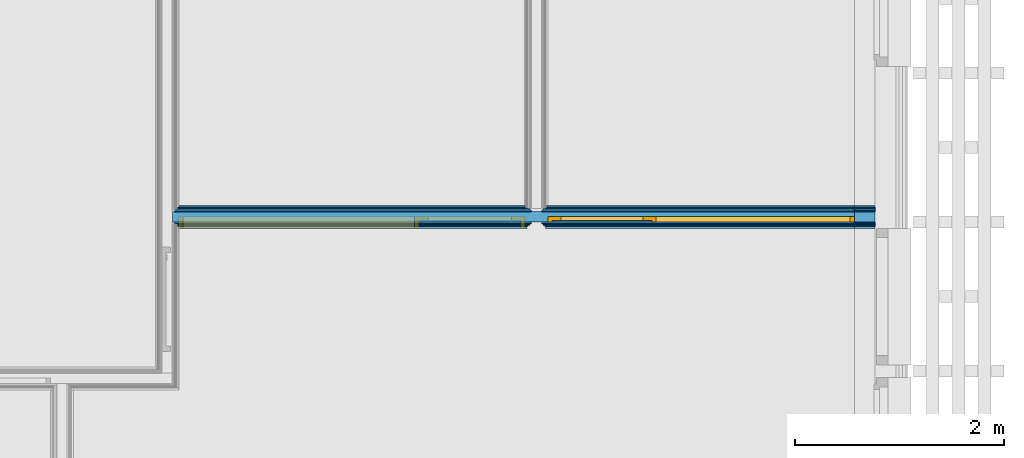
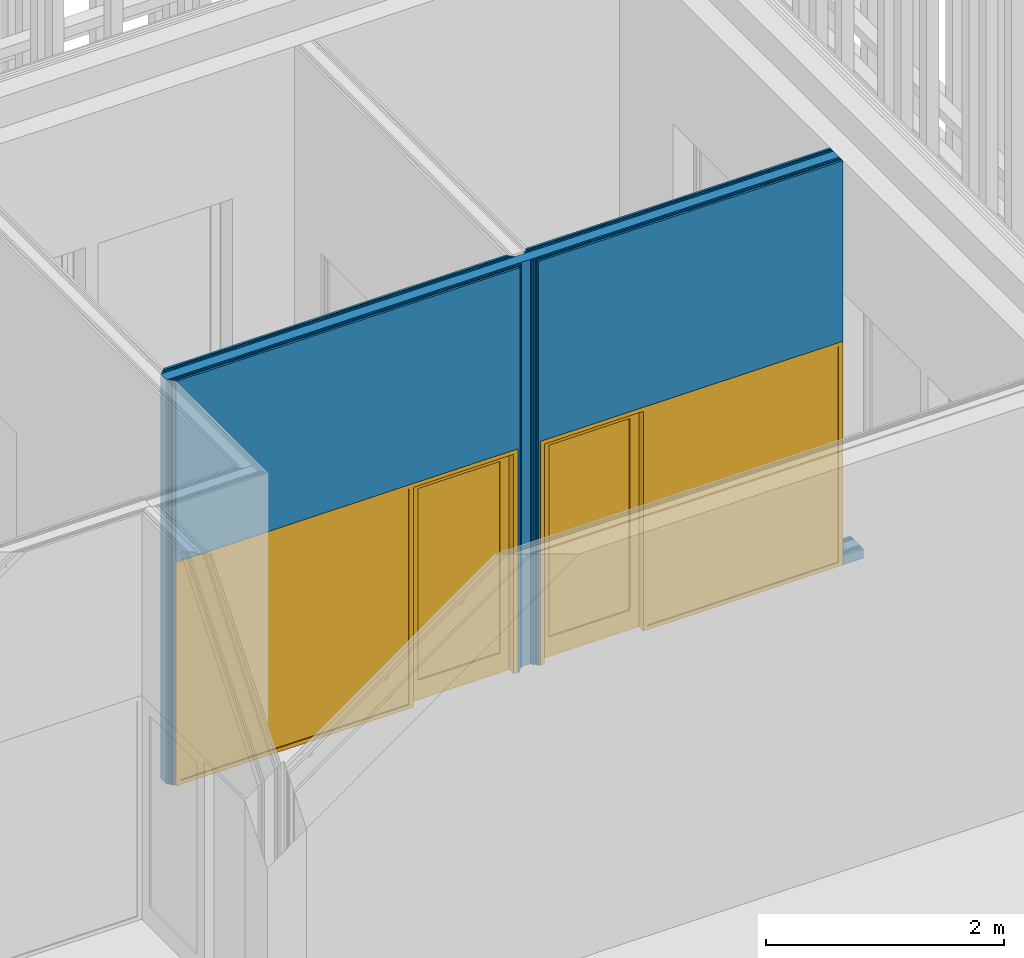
# One storey, part 220 of 260: 9 building element parts, 2 doors, 2 openings, 1 element without a shape of its own.
"""IFC2X3 building model written with IfcOpenShell, lengths in millimetres."""

from ifc_helpers import new_model, entity, si_unit, converted_unit, derived_unit, money_unit, direction, frame, origin_with_axes, place, context, subcontext, project, spatial, open_shell, faceted_brep, surface_model, material, type_object, element, fill, aggregate, save


model = new_model("IFC2X3")

# Units and contexts
model_context = context("Model", 3, precision=0.01, world=origin_with_axes(), true_north=direction((0.0, 1.0)))
body_context = subcontext(model_context, "Body", "Model", "MODEL_VIEW")
ifc_project = project(units=[si_unit("LENGTHUNIT", "METRE", prefix="MILLI"), si_unit("AREAUNIT", "SQUARE_METRE"), si_unit("VOLUMEUNIT", "CUBIC_METRE"), converted_unit("PLANEANGLEUNIT", "DEGREE", entity("IfcPlaneAngleMeasure", 0.0174532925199), si_unit("PLANEANGLEUNIT", "RADIAN"), dimensions=[0, 0, 0, 0, 0, 0, 0]), money_unit("EUR"), converted_unit("TIMEUNIT", "Year", entity("IfcTimeMeasure", 31556926.0), si_unit("TIMEUNIT", "SECOND"), dimensions=[0, 0, 1, 0, 0, 0, 0]), si_unit("MASSUNIT", "GRAM", prefix="KILO"), si_unit("THERMODYNAMICTEMPERATUREUNIT", "DEGREE_CELSIUS"), si_unit("LUMINOUSINTENSITYUNIT", "LUMEN"), si_unit("ENERGYUNIT", "JOULE", prefix="MEGA"), derived_unit("THERMALCONDUCTANCEUNIT", [(si_unit("POWERUNIT", "WATT"), 1), (si_unit("LENGTHUNIT", "METRE"), -1), (si_unit("THERMODYNAMICTEMPERATUREUNIT", "KELVIN"), -1)]), derived_unit("SPECIFICHEATCAPACITYUNIT", [(si_unit("ENERGYUNIT", "JOULE"), 1), (si_unit("MASSUNIT", "GRAM", prefix="KILO"), -1), (si_unit("THERMODYNAMICTEMPERATUREUNIT", "KELVIN"), -1)]), derived_unit("MASSDENSITYUNIT", [(si_unit("MASSUNIT", "GRAM", prefix="KILO"), 1), (si_unit("VOLUMEUNIT", "CUBIC_METRE"), -1)])], contexts=[model_context])

# Site, building, storey
site_placement = place(None, origin_with_axes())
site = spatial("IfcSite", under=ifc_project, at=site_placement, Name="Kolde pst 67a", CompositionType="ELEMENT")
building_placement = place(site_placement, origin_with_axes())
building = spatial("IfcBuilding", under=site, at=building_placement, Name="Riigigümnaasium", CompositionType="ELEMENT")
storey_placement = place(building_placement, origin_with_axes())
storey = spatial("IfcBuildingStorey", under=building, at=storey_placement, Name="1. korrus", CompositionType="ELEMENT", Elevation=0.0)

# Door
door_style_1 = type_object("IfcDoorStyle", Name="Door with Sidelight on Side 2 25", ConstructionType="NOTDEFINED", OperationType="SINGLE_SWING_LEFT", ParameterTakesPrecedence=False, Sizeable=False)
wall_placement = place(storey_placement, frame((77599.9912984, 32700.0250702, 0.0), z_axis=(0.0, 0.0, 1.0), x_axis=(1.0, 0.0, 0.0)))
opening_2_placement = place(wall_placement, frame((5170.0080295, 0.0, 0.0), z_axis=(0.0, 0.0, 1.0), x_axis=(1.0, 0.0, 0.0)))
door_1_placement = place(opening_2_placement, frame((-1470.0, 0.0, 0.0), z_axis=(0.0, 0.0, 1.0), x_axis=(1.0, 0.0, 0.0)))
door_1 = element("IfcDoor", 1, at=door_1_placement, inside=storey, type_object=door_style_1, Name="Siseuks", ObjectType="DOOR", OverallHeight=2300.0, OverallWidth=2940.0, context=body_context, shape_type="SurfaceModel", body=[
    faceted_brep([(2940.0, -105.0, 0.0), (2940.0, -220.0, 0.0), (2900.0, -220.0, 0.0), (2900.0, -105.0, 0.0), (2940.0, -105.0, 2260.0), (2940.0, -220.0, 2260.0), (2900.0, -220.0, 2260.0), (2900.0, -220.0, 40.0), (2900.0, -105.0, 40.0), (2900.0, -105.0, 2260.0)], [[[0, 1, 2, 3]], [[4, 5, 1, 0]], [[1, 5, 6, 7, 2]], [[3, 2, 7, 8]], [[0, 3, 8, 9, 4]], [[9, 6, 5, 4]], [[8, 7, 6, 9]]]),
    faceted_brep([(1000.0, -145.0, 0.0), (1000.0, -220.0, 0.0), (1000.0, -220.0, 2260.0), (1000.0, -145.0, 2260.0), (1012.0, -145.0, 0.0), (1012.0, -105.0, 0.0), (1040.0, -105.0, 0.0), (1040.0, -220.0, 0.0), (1040.0, -220.0, 40.0), (1040.0, -220.0, 2260.0), (1012.0, -145.0, 2260.0), (1040.0, -105.0, 2260.0), (1012.0, -105.0, 2260.0), (1040.0, -105.0, 40.0)], [[[0, 1, 2, 3]], [[4, 5, 6, 7, 1, 0]], [[7, 8, 9, 2, 1]], [[10, 3, 2, 9, 11, 12]], [[10, 4, 0, 3]], [[12, 5, 4, 10]], [[12, 11, 13, 6, 5]], [[6, 13, 8, 7]], [[13, 11, 9, 8]]]),
    faceted_brep([(2900.0, -105.0, 40.0), (2900.0, -220.0, 40.0), (2900.0, -220.0, 0.0), (2900.0, -105.0, 0.0), (1040.0, -105.0, 40.0), (1040.0, -220.0, 40.0), (1040.0, -220.0, 0.0), (1040.0, -105.0, 0.0)], [[[0, 1, 2, 3]], [[4, 5, 1, 0]], [[1, 5, 6, 2]], [[3, 2, 6, 7]], [[0, 3, 7, 4]], [[7, 6, 5, 4]]]),
    faceted_brep([(28.0, -145.0, 2260.0), (28.0, -105.0, 2260.0), (0.0, -105.0, 2260.0), (0.0, -220.0, 2260.0), (40.0, -220.0, 2260.0), (40.0, -145.0, 2260.0), (28.0, -145.0, 0.0), (28.0, -105.0, 0.0), (0.0, -105.0, 0.0), (0.0, -220.0, 0.0), (40.0, -220.0, 0.0), (40.0, -145.0, 0.0)], [[[0, 1, 2, 3, 4, 5]], [[0, 6, 7, 1]], [[7, 8, 2, 1]], [[2, 8, 9, 3]], [[3, 9, 10, 4]], [[5, 4, 10, 11]], [[5, 11, 6, 0]], [[6, 11, 10, 9, 8, 7]]]),
    faceted_brep([(1012.0, -105.0, 2272.0), (28.0, -105.0, 2272.0), (28.0, -105.0, 2260.0), (0.0, -105.0, 2260.0), (0.0, -105.0, 2300.0), (2940.0, -105.0, 2300.0), (2940.0, -105.0, 2260.0), (2900.0, -105.0, 2260.0), (1040.0, -105.0, 2260.0), (1012.0, -105.0, 2260.0), (1012.0, -145.0, 2272.0), (28.0, -145.0, 2272.0), (28.0, -145.0, 2260.0), (40.0, -145.0, 2260.0), (40.0, -220.0, 2260.0), (0.0, -220.0, 2260.0), (0.0, -220.0, 2300.0), (2940.0, -220.0, 2300.0), (2940.0, -220.0, 2260.0), (2900.0, -220.0, 2260.0), (1040.0, -220.0, 2260.0), (1012.0, -145.0, 2260.0), (1000.0, -220.0, 2260.0)], [[[0, 1, 2, 3, 4, 5, 6, 7, 8, 9]], [[0, 10, 11, 1]], [[1, 11, 12, 2]], [[12, 13, 14, 15, 3, 2]], [[4, 3, 15, 16]], [[5, 4, 16, 17]], [[6, 5, 17, 18]], [[7, 6, 18, 19]], [[8, 7, 19, 20]], [[21, 9, 8, 20, 22, 14, 13]], [[9, 21, 10, 0]], [[12, 11, 10, 21, 13]], [[14, 22, 20, 19, 18, 17, 16, 15]]]),
    faceted_brep([(28.0, -105.0, 200.0), (128.0, -105.0, 200.0), (128.0, -145.0, 200.0), (28.0, -145.0, 200.0), (28.0, -105.0, 2172.0), (128.0, -105.0, 2172.0), (128.0, -145.0, 2172.0), (28.0, -145.0, 2172.0)], [[[0, 1, 2, 3]], [[0, 4, 5, 1]], [[1, 5, 6, 2]], [[3, 2, 6, 7]], [[4, 0, 3, 7]], [[5, 4, 7, 6]]]),
    faceted_brep([(1012.0, -105.0, 200.0), (1012.0, -105.0, 2172.0), (1012.0, -145.0, 2172.0), (1012.0, -145.0, 200.0), (912.0, -105.0, 200.0), (912.0, -105.0, 2172.0), (912.0, -145.0, 2172.0), (912.0, -145.0, 200.0)], [[[0, 1, 2, 3]], [[0, 4, 5, 1]], [[1, 5, 6, 2]], [[3, 2, 6, 7]], [[4, 0, 3, 7]], [[5, 4, 7, 6]]]),
    faceted_brep([(28.0, -105.0, 0.0), (1012.0, -105.0, 0.0), (1012.0, -145.0, 0.0), (28.0, -145.0, 0.0), (28.0, -105.0, 200.0), (128.0, -105.0, 200.0), (912.0, -105.0, 200.0), (1012.0, -105.0, 200.0), (1012.0, -145.0, 200.0), (912.0, -145.0, 200.0), (128.0, -145.0, 200.0), (28.0, -145.0, 200.0)], [[[0, 1, 2, 3]], [[0, 4, 5, 6, 7, 1]], [[1, 7, 8, 2]], [[3, 2, 8, 9, 10, 11]], [[4, 0, 3, 11]], [[5, 4, 11, 10]], [[6, 5, 10, 9]], [[7, 6, 9, 8]]]),
    faceted_brep([(28.0, -105.0, 2272.0), (28.0, -105.0, 2172.0), (28.0, -145.0, 2172.0), (28.0, -145.0, 2272.0), (1012.0, -105.0, 2272.0), (1012.0, -105.0, 2172.0), (912.0, -105.0, 2172.0), (128.0, -105.0, 2172.0), (128.0, -145.0, 2172.0), (912.0, -145.0, 2172.0), (1012.0, -145.0, 2172.0), (1012.0, -145.0, 2272.0)], [[[0, 1, 2, 3]], [[0, 4, 5, 6, 7, 1]], [[1, 7, 8, 2]], [[3, 2, 8, 9, 10, 11]], [[4, 0, 3, 11]], [[5, 4, 11, 10]], [[6, 5, 10, 9]], [[7, 6, 9, 8]]]),
    surface_model("IfcShellBasedSurfaceModel", [(128.0, -119.0, 200.0), (128.0, -119.0, 2172.0), (912.0, -119.0, 2172.0), (912.0, -119.0, 200.0)], [open_shell([[[0, 1, 2, 3]]])]),
    surface_model("IfcShellBasedSurfaceModel", [(128.0, -131.0, 200.0), (912.0, -131.0, 200.0), (912.0, -131.0, 2172.0), (128.0, -131.0, 2172.0)], [open_shell([[[0, 1, 2, 3]]])]),
    surface_model("IfcShellBasedSurfaceModel", [(2900.0, -196.0, 40.0), (1040.0, -196.0, 40.0), (1040.0, -196.0, 2260.0), (2900.0, -196.0, 2260.0)], [open_shell([[[0, 1, 2, 3]]])]),
    surface_model("IfcShellBasedSurfaceModel", [(2900.0, -208.0, 40.0), (2900.0, -208.0, 2260.0), (1040.0, -208.0, 2260.0), (1040.0, -208.0, 40.0)], [open_shell([[[0, 1, 2, 3]]])]),
])

door_style_2 = type_object("IfcDoorStyle", Name="Door with Sidelight on Side 2 25", ConstructionType="NOTDEFINED", OperationType="SINGLE_SWING_RIGHT", ParameterTakesPrecedence=False, Sizeable=False)
opening_1_placement = place(wall_placement, frame((1820.00401475, 0.0, 0.0), z_axis=(0.0, 0.0, 1.0), x_axis=(1.0, 0.0, 0.0)))
door_2_placement = place(opening_1_placement, frame((-1660.00401475, 0.0, 0.0), z_axis=(0.0, 0.0, 1.0), x_axis=(1.0, 0.0, 0.0)))
door_2 = element("IfcDoor", 2, at=door_2_placement, inside=storey, type_object=door_style_2, Name="Siseuks", ObjectType="DOOR", OverallHeight=2300.0, OverallWidth=3320.01, context=body_context, shape_type="SurfaceModel", body=[
    faceted_brep([(0.0, -105.0, 0.0), (40.0, -105.0, 0.0), (40.0, -220.0, 0.0), (0.0, -220.0, 0.0), (0.0, -105.0, 2260.0), (40.0, -105.0, 2260.0), (40.0, -105.0, 40.0), (40.0, -220.0, 40.0), (40.0, -220.0, 2260.0), (0.0, -220.0, 2260.0)], [[[0, 1, 2, 3]], [[0, 4, 5, 6, 1]], [[1, 6, 7, 2]], [[3, 2, 7, 8, 9]], [[4, 0, 3, 9]], [[5, 4, 9, 8]], [[6, 5, 8, 7]]]),
    faceted_brep([(2304.0080295, -145.0, 0.0), (2304.0080295, -145.0, 2260.0), (2304.0080295, -220.0, 2260.0), (2304.0080295, -220.0, 0.0), (2292.0080295, -145.0, 2260.0), (2292.0080295, -145.0, 0.0), (2292.0080295, -105.0, 2260.0), (2264.0080295, -105.0, 2260.0), (2264.0080295, -220.0, 2260.0), (2264.0080295, -220.0, 0.0), (2264.0080295, -220.0, 40.0), (2264.0080295, -105.0, 0.0), (2292.0080295, -105.0, 0.0), (2264.0080295, -105.0, 40.0)], [[[0, 1, 2, 3]], [[4, 1, 0, 5]], [[4, 6, 7, 8, 2, 1]], [[9, 3, 2, 8, 10]], [[5, 0, 3, 9, 11, 12]], [[6, 4, 5, 12]], [[6, 12, 11, 13, 7]], [[13, 10, 8, 7]], [[11, 9, 10, 13]]]),
    faceted_brep([(40.0, -105.0, 40.0), (40.0, -105.0, 0.0), (40.0, -220.0, 0.0), (40.0, -220.0, 40.0), (2264.0080295, -105.0, 40.0), (2264.0080295, -105.0, 0.0), (2264.0080295, -220.0, 0.0), (2264.0080295, -220.0, 40.0)], [[[0, 1, 2, 3]], [[0, 4, 5, 1]], [[1, 5, 6, 2]], [[3, 2, 6, 7]], [[4, 0, 3, 7]], [[5, 4, 7, 6]]]),
    faceted_brep([(3292.0080295, -145.0, 2260.0), (3280.0080295, -145.0, 2260.0), (3280.0080295, -220.0, 2260.0), (3320.0080295, -220.0, 2260.0), (3320.0080295, -105.0, 2260.0), (3292.0080295, -105.0, 2260.0), (3292.0080295, -145.0, 0.0), (3280.0080295, -145.0, 0.0), (3280.0080295, -220.0, 0.0), (3320.0080295, -220.0, 0.0), (3320.0080295, -105.0, 0.0), (3292.0080295, -105.0, 0.0)], [[[0, 1, 2, 3, 4, 5]], [[1, 0, 6, 7]], [[1, 7, 8, 2]], [[3, 2, 8, 9]], [[4, 3, 9, 10]], [[11, 5, 4, 10]], [[0, 5, 11, 6]], [[6, 11, 10, 9, 8, 7]]]),
    faceted_brep([(2292.0080295, -105.0, 2272.0), (2292.0080295, -105.0, 2260.0), (2264.0080295, -105.0, 2260.0), (40.0, -105.0, 2260.0), (0.0, -105.0, 2260.0), (0.0, -105.0, 2300.0), (3320.0080295, -105.0, 2300.0), (3320.0080295, -105.0, 2260.0), (3292.0080295, -105.0, 2260.0), (3292.0080295, -105.0, 2272.0), (2292.0080295, -145.0, 2272.0), (2292.0080295, -145.0, 2260.0), (3280.0080295, -145.0, 2260.0), (3280.0080295, -220.0, 2260.0), (2304.0080295, -220.0, 2260.0), (2264.0080295, -220.0, 2260.0), (40.0, -220.0, 2260.0), (0.0, -220.0, 2260.0), (0.0, -220.0, 2300.0), (3320.0080295, -220.0, 2300.0), (3320.0080295, -220.0, 2260.0), (3292.0080295, -145.0, 2260.0), (3292.0080295, -145.0, 2272.0)], [[[0, 1, 2, 3, 4, 5, 6, 7, 8, 9]], [[1, 0, 10, 11]], [[11, 12, 13, 14, 15, 2, 1]], [[2, 15, 16, 3]], [[3, 16, 17, 4]], [[4, 17, 18, 5]], [[5, 18, 19, 6]], [[6, 19, 20, 7]], [[21, 8, 7, 20, 13, 12]], [[9, 8, 21, 22]], [[0, 9, 22, 10]], [[21, 12, 11, 10, 22]], [[13, 20, 19, 18, 17, 16, 15, 14]]]),
    faceted_brep([(3292.0080295, -105.0, 200.0), (3292.0080295, -145.0, 200.0), (3192.0080295, -145.0, 200.0), (3192.0080295, -105.0, 200.0), (3292.0080295, -105.0, 2172.0), (3292.0080295, -145.0, 2172.0), (3192.0080295, -145.0, 2172.0), (3192.0080295, -105.0, 2172.0)], [[[0, 1, 2, 3]], [[4, 5, 1, 0]], [[1, 5, 6, 2]], [[3, 2, 6, 7]], [[0, 3, 7, 4]], [[7, 6, 5, 4]]]),
    faceted_brep([(2292.0080295, -105.0, 200.0), (2292.0080295, -145.0, 200.0), (2292.0080295, -145.0, 2172.0), (2292.0080295, -105.0, 2172.0), (2392.0080295, -105.0, 200.0), (2392.0080295, -145.0, 200.0), (2392.0080295, -145.0, 2172.0), (2392.0080295, -105.0, 2172.0)], [[[0, 1, 2, 3]], [[4, 5, 1, 0]], [[1, 5, 6, 2]], [[3, 2, 6, 7]], [[0, 3, 7, 4]], [[7, 6, 5, 4]]]),
    faceted_brep([(3292.0080295, -105.0, 0.0), (3292.0080295, -145.0, 0.0), (2292.0080295, -145.0, 0.0), (2292.0080295, -105.0, 0.0), (3292.0080295, -105.0, 200.0), (3292.0080295, -145.0, 200.0), (3192.0080295, -145.0, 200.0), (2392.0080295, -145.0, 200.0), (2292.0080295, -145.0, 200.0), (2292.0080295, -105.0, 200.0), (2392.0080295, -105.0, 200.0), (3192.0080295, -105.0, 200.0)], [[[0, 1, 2, 3]], [[4, 5, 1, 0]], [[1, 5, 6, 7, 8, 2]], [[3, 2, 8, 9]], [[0, 3, 9, 10, 11, 4]], [[11, 6, 5, 4]], [[10, 7, 6, 11]], [[9, 8, 7, 10]]]),
    faceted_brep([(3292.0080295, -105.0, 2272.0), (3292.0080295, -145.0, 2272.0), (3292.0080295, -145.0, 2172.0), (3292.0080295, -105.0, 2172.0), (2292.0080295, -105.0, 2272.0), (2292.0080295, -145.0, 2272.0), (2292.0080295, -145.0, 2172.0), (2392.0080295, -145.0, 2172.0), (3192.0080295, -145.0, 2172.0), (3192.0080295, -105.0, 2172.0), (2392.0080295, -105.0, 2172.0), (2292.0080295, -105.0, 2172.0)], [[[0, 1, 2, 3]], [[4, 5, 1, 0]], [[1, 5, 6, 7, 8, 2]], [[3, 2, 8, 9]], [[0, 3, 9, 10, 11, 4]], [[11, 6, 5, 4]], [[10, 7, 6, 11]], [[9, 8, 7, 10]]]),
    surface_model("IfcShellBasedSurfaceModel", [(3192.0080295, -119.0, 200.0), (2392.0080295, -119.0, 200.0), (2392.0080295, -119.0, 2172.0), (3192.0080295, -119.0, 2172.0)], [open_shell([[[0, 1, 2, 3]]])]),
    surface_model("IfcShellBasedSurfaceModel", [(3192.0080295, -131.0, 200.0), (3192.0080295, -131.0, 2172.0), (2392.0080295, -131.0, 2172.0), (2392.0080295, -131.0, 200.0)], [open_shell([[[0, 1, 2, 3]]])]),
    surface_model("IfcShellBasedSurfaceModel", [(40.0, -196.0, 40.0), (40.0, -196.0, 2260.0), (2264.0080295, -196.0, 2260.0), (2264.0080295, -196.0, 40.0)], [open_shell([[[0, 1, 2, 3]]])]),
    surface_model("IfcShellBasedSurfaceModel", [(40.0, -208.0, 40.0), (2264.0080295, -208.0, 40.0), (2264.0080295, -208.0, 2260.0), (40.0, -208.0, 2260.0)], [open_shell([[[0, 1, 2, 3]]])]),
])

# Wall, opening
wall_type = type_object("IfcWallType", Name="SS-PK-10/1_vill100+2dold 220", PredefinedType="NOTDEFINED")
wall = element("IfcWall", 3, at=wall_placement, inside=storey, type_object=wall_type, Name="Sisesein")
opening_1 = element("IfcOpeningElement", 4, at=opening_1_placement, cuts=wall, Name="Siseuks", context=body_context, shape_type="Brep", body=[
    faceted_brep([(1660.00401475, 220.0, 0.0), (1660.00401475, 220.0, 2300.0), (1660.00401475, -440.0, 2300.0), (1660.00401475, -440.0, 0.0), (-1660.00401475, 220.0, 0.0), (-1660.00401475, 220.0, 2300.0), (-1660.00401475, -440.0, 2300.0), (-1660.00401475, -440.0, 0.0)], [[[0, 1, 2, 3]], [[0, 4, 5, 1]], [[1, 5, 6, 2]], [[3, 2, 6, 7]], [[4, 0, 3, 7]], [[5, 4, 7, 6]]]),
])

fill(opening_1, door_2)

# Opening
opening_2 = element("IfcOpeningElement", 5, at=opening_2_placement, cuts=wall, Name="Siseuks", context=body_context, shape_type="Brep", body=[
    faceted_brep([(-1470.0, -440.0, 0.0), (-1470.0, -440.0, 2300.0), (-1470.0, 220.0, 2300.0), (-1470.0, 220.0, 0.0), (1470.0, -440.0, 0.0), (1470.0, -440.0, 2300.0), (1470.0, 220.0, 2300.0), (1470.0, 220.0, 0.0)], [[[0, 1, 2, 3]], [[0, 4, 5, 1]], [[1, 5, 6, 2]], [[3, 2, 6, 7]], [[4, 0, 3, 7]], [[5, 4, 7, 6]]]),
])

fill(opening_2, door_1)

# Building element part
ifc_material_1 = material(Name="_VIIMISTLUSKIHT - Dold plaat vastavalt SA osale")
building_element_part_1_placement = place(wall_placement, origin_with_axes())
building_element_part_1 = element("IfcBuildingElementPart", 6, at=building_element_part_1_placement, material=ifc_material_1, Name="_VIIMISTLUSKIHT - Dold plaat vastavalt SA osale", context=body_context, shape_type="Brep", body=[
    faceted_brep([(6640.0080295, 0.0, 0.0), (6640.0080295, 0.0, 100.0), (6840.0080295, 0.0, 100.0), (6840.0080295, 0.0, 0.0), (6640.0080295, -20.0, 100.0), (6640.0080295, -20.0, 0.0), (6840.0080295, -20.0, 100.0), (6840.0080295, -20.0, 0.0)], [[[0, 1, 2, 3]], [[4, 1, 0, 5]], [[1, 4, 6, 2]], [[2, 6, 7, 3]], [[5, 0, 3, 7]], [[4, 5, 7, 6]]]),
    faceted_brep([(6640.0080295, -20.0, 2300.0), (6640.0080295, 0.0, 2300.0), (6640.0080295, 0.0, 4156.9), (6640.0080295, -20.0, 4156.9), (3700.0080295, 0.0, 2300.0), (3700.0080295, -20.0, 2300.0), (3700.0080295, 0.0, 0.0), (3680.0080295, 0.0, 0.0), (3680.0080295, 0.0, 4156.9), (3680.0080295, -20.0, 4156.9), (3680.0080295, -20.0, 0.0), (3700.0080295, -20.0, 0.0)], [[[0, 1, 2, 3]], [[4, 1, 0, 5]], [[4, 6, 7, 8, 2, 1]], [[2, 8, 9, 3]], [[5, 0, 3, 9, 10, 11]], [[6, 4, 5, 11]], [[6, 11, 10, 7]], [[8, 7, 10, 9]]]),
    faceted_brep([(3480.0080295, 0.0, 2300.0), (160.0, 0.0, 2300.0), (160.0, 0.0, 4156.9), (3500.0080295, 0.0, 4156.9), (3500.0080295, 0.0, 0.0), (3480.0080295, 0.0, 0.0), (3480.0080295, -20.0, 2300.0), (160.0, -20.0, 2300.0), (160.0, -20.0, 4156.9), (3500.0080295, -20.0, 4156.9), (3500.0080295, -20.0, 0.0), (3480.0080295, -20.0, 0.0)], [[[0, 1, 2, 3, 4, 5]], [[1, 0, 6, 7]], [[1, 7, 8, 2]], [[3, 2, 8, 9]], [[9, 10, 4, 3]], [[11, 5, 4, 10]], [[0, 5, 11, 6]], [[6, 11, 10, 9, 8, 7]]]),
])

ifc_material_2 = material(Name="_KARKASS - eriprofiilkinnitus vastavalt sisemisele plaatviimistlusele")
building_element_part_2_placement = place(wall_placement, origin_with_axes())
building_element_part_2 = element("IfcBuildingElementPart", 7, at=building_element_part_2_placement, material=ifc_material_2, Name="_KARKASS - eriprofiilkinnitus vastavalt sisemisele plaatviimistlusele", context=body_context, shape_type="Brep", body=[
    faceted_brep([(6640.0080295, -20.0, 0.0), (6640.0080295, -20.0, 100.0), (6840.0080295, -20.0, 100.0), (6840.0080295, -20.0, 0.0), (6640.0080295, -30.0, 100.0), (6640.0080295, -30.0, 0.0), (6840.0080295, -30.0, 100.0), (6840.0080295, -30.0, 0.0)], [[[0, 1, 2, 3]], [[4, 1, 0, 5]], [[1, 4, 6, 2]], [[2, 6, 7, 3]], [[5, 0, 3, 7]], [[4, 5, 7, 6]]]),
    faceted_brep([(6640.0080295, -30.0, 2300.0), (6640.0080295, -20.0, 2300.0), (6640.0080295, -20.0, 4156.9), (6640.0080295, -30.0, 4156.9), (3700.0080295, -20.0, 2300.0), (3700.0080295, -30.0, 2300.0), (3700.0080295, -20.0, 0.0), (3670.0080295, -20.0, 0.0), (3670.0080295, -20.0, 4156.9), (3670.0080295, -30.0, 4156.9), (3670.0080295, -30.0, 0.0), (3700.0080295, -30.0, 0.0)], [[[0, 1, 2, 3]], [[4, 1, 0, 5]], [[4, 6, 7, 8, 2, 1]], [[2, 8, 9, 3]], [[5, 0, 3, 9, 10, 11]], [[6, 4, 5, 11]], [[6, 11, 10, 7]], [[8, 7, 10, 9]]]),
    faceted_brep([(160.0, -20.0, 2300.0), (160.0, -20.0, 0.0), (140.0, -20.0, 0.0), (140.0, -20.0, 4156.9), (3510.0080295, -20.0, 4156.9), (3510.0080295, -20.0, 0.0), (3480.0080295, -20.0, 0.0), (3480.0080295, -20.0, 2300.0), (160.0, -30.0, 2300.0), (160.0, -30.0, 0.0), (140.0, -30.0, 0.0), (140.0, -30.0, 4156.9), (3510.0080295, -30.0, 4156.9), (3510.0080295, -30.0, 0.0), (3480.0080295, -30.0, 0.0), (3480.0080295, -30.0, 2300.0)], [[[0, 1, 2, 3, 4, 5, 6, 7]], [[1, 0, 8, 9]], [[1, 9, 10, 2]], [[3, 2, 10, 11]], [[4, 3, 11, 12]], [[12, 13, 5, 4]], [[14, 6, 5, 13]], [[7, 6, 14, 15]], [[0, 7, 15, 8]], [[15, 14, 13, 12, 11, 10, 9, 8]]]),
])

ifc_material_3 = material(Name="_PLAATMATERJAL - tuletõkkekipsplaat, Knauf Red GKF või samaväärne")
building_element_part_3_placement = place(wall_placement, origin_with_axes())
building_element_part_3 = element("IfcBuildingElementPart", 8, at=building_element_part_3_placement, material=ifc_material_3, Name="_PLAATMATERJAL - tuletõkkekipsplaat, Knauf Red GKF või samaväärne", context=body_context, shape_type="Brep", body=[
    faceted_brep([(6640.0080295, -30.0, 0.0), (6640.0080295, -30.0, 100.0), (6840.0080295, -30.0, 100.0), (6840.0080295, -30.0, 0.0), (6640.0080295, -45.0, 100.0), (6640.0080295, -45.0, 0.0), (6840.0080295, -45.0, 100.0), (6840.0080295, -45.0, 0.0)], [[[0, 1, 2, 3]], [[4, 1, 0, 5]], [[1, 4, 6, 2]], [[2, 6, 7, 3]], [[5, 0, 3, 7]], [[4, 5, 7, 6]]]),
    faceted_brep([(6640.0080295, -45.0, 2300.0), (6640.0080295, -30.0, 2300.0), (6640.0080295, -30.0, 4156.9), (6640.0080295, -45.0, 4156.9), (3700.0080295, -30.0, 2300.0), (3700.0080295, -45.0, 2300.0), (3700.0080295, -30.0, 0.0), (3655.0080295, -30.0, 0.0), (3655.0080295, -30.0, 4156.9), (3655.0080295, -45.0, 4156.9), (3655.0080295, -45.0, 0.0), (3700.0080295, -45.0, 0.0)], [[[0, 1, 2, 3]], [[4, 1, 0, 5]], [[4, 6, 7, 8, 2, 1]], [[2, 8, 9, 3]], [[5, 0, 3, 9, 10, 11]], [[6, 4, 5, 11]], [[6, 11, 10, 7]], [[8, 7, 10, 9]]]),
    faceted_brep([(160.0, -30.0, 2300.0), (160.0, -30.0, 0.0), (130.0, -30.0, 0.0), (130.0, -30.0, 4156.9), (3525.0080295, -30.0, 4156.9), (3525.0080295, -30.0, 0.0), (3480.0080295, -30.0, 0.0), (3480.0080295, -30.0, 2300.0), (160.0, -45.0, 2300.0), (160.0, -45.0, 0.0), (130.0, -45.0, 0.0), (130.0, -45.0, 4156.9), (3525.0080295, -45.0, 4156.9), (3525.0080295, -45.0, 0.0), (3480.0080295, -45.0, 0.0), (3480.0080295, -45.0, 2300.0)], [[[0, 1, 2, 3, 4, 5, 6, 7]], [[1, 0, 8, 9]], [[1, 9, 10, 2]], [[3, 2, 10, 11]], [[4, 3, 11, 12]], [[12, 13, 5, 4]], [[14, 6, 5, 13]], [[7, 6, 14, 15]], [[0, 7, 15, 8]], [[15, 14, 13, 12, 11, 10, 9, 8]]]),
])

building_element_part_4_placement = place(wall_placement, origin_with_axes())
building_element_part_4 = element("IfcBuildingElementPart", 9, at=building_element_part_4_placement, material=ifc_material_3, Name="_PLAATMATERJAL - tuletõkkekipsplaat, Knauf Red GKF või samaväärne", context=body_context, shape_type="Brep", body=[
    faceted_brep([(6640.0080295, -45.0, 0.0), (6640.0080295, -45.0, 100.0), (6840.0080295, -45.0, 100.0), (6840.0080295, -45.0, 0.0), (6640.0080295, -60.0, 100.0), (6640.0080295, -60.0, 0.0), (6840.0080295, -60.0, 100.0), (6840.0080295, -60.0, 0.0)], [[[0, 1, 2, 3]], [[4, 1, 0, 5]], [[1, 4, 6, 2]], [[2, 6, 7, 3]], [[5, 0, 3, 7]], [[4, 5, 7, 6]]]),
    faceted_brep([(6640.0080295, -60.0, 2300.0), (6640.0080295, -45.0, 2300.0), (6640.0080295, -45.0, 4156.9), (6640.0080295, -60.0, 4156.9), (3700.0080295, -45.0, 2300.0), (3700.0080295, -60.0, 2300.0), (3700.0080295, -45.0, 0.0), (3640.0080295, -45.0, 0.0), (3640.0080295, -45.0, 4156.9), (3640.0080295, -60.0, 4156.9), (3640.0080295, -60.0, 0.0), (3700.0080295, -60.0, 0.0)], [[[0, 1, 2, 3]], [[4, 1, 0, 5]], [[4, 6, 7, 8, 2, 1]], [[2, 8, 9, 3]], [[5, 0, 3, 9, 10, 11]], [[6, 4, 5, 11]], [[6, 11, 10, 7]], [[8, 7, 10, 9]]]),
    faceted_brep([(160.0, -45.0, 2300.0), (160.0, -45.0, 0.0), (115.0, -45.0, 0.0), (115.0, -45.0, 4156.9), (3540.0080295, -45.0, 4156.9), (3540.0080295, -45.0, 0.0), (3480.0080295, -45.0, 0.0), (3480.0080295, -45.0, 2300.0), (160.0, -60.0, 2300.0), (160.0, -60.0, 0.0), (115.0, -60.0, 0.0), (115.0, -60.0, 4156.9), (3540.0080295, -60.0, 4156.9), (3540.0080295, -60.0, 0.0), (3480.0080295, -60.0, 0.0), (3480.0080295, -60.0, 2300.0)], [[[0, 1, 2, 3, 4, 5, 6, 7]], [[1, 0, 8, 9]], [[1, 9, 10, 2]], [[3, 2, 10, 11]], [[4, 3, 11, 12]], [[12, 13, 5, 4]], [[14, 6, 5, 13]], [[7, 6, 14, 15]], [[0, 7, 15, 8]], [[15, 14, 13, 12, 11, 10, 9, 8]]]),
])

ifc_material_4 = material(Name="_KARKASS - puitpruss 100x50mm vertikaalne, samm 600mm, vahel mineraalvill, helineeldetegur αw = 1.0, ISOVER ACOUSTIC 100mm või samaväärne")
building_element_part_5_placement = place(wall_placement, origin_with_axes())
building_element_part_5 = element("IfcBuildingElementPart", 10, at=building_element_part_5_placement, material=ifc_material_4, Name="_KARKASS - puitpruss 100x50mm vertikaalne, samm 600mm, vahel mineraalvill, helineeldetegur αw = 1.0, ISOVER ACOUSTIC 100mm või samaväärne", context=body_context, shape_type="Brep", body=[
    faceted_brep([(6640.0080295, -60.0, 0.0), (6640.0080295, -60.0, 100.0), (6840.0080295, -60.0, 100.0), (6840.0080295, -60.0, 0.0), (6640.0080295, -160.0, 100.0), (6640.0080295, -160.0, 0.0), (6840.0080295, -160.0, 100.0), (6840.0080295, -160.0, 0.0)], [[[0, 1, 2, 3]], [[4, 1, 0, 5]], [[1, 4, 6, 2]], [[6, 7, 3, 2]], [[5, 0, 3, 7]], [[4, 5, 7, 6]]]),
    faceted_brep([(6640.0080295, -160.0, 2300.0), (6640.0080295, -60.0, 2300.0), (6640.0080295, -60.0, 4156.9), (6640.0080295, -160.0, 4156.9), (3700.0080295, -60.0, 2300.0), (3700.0080295, -160.0, 2300.0), (3700.0080295, -60.0, 0.0), (3480.0080295, -60.0, 0.0), (3480.0080295, -60.0, 2300.0), (160.0, -60.0, 2300.0), (160.0, -60.0, 0.0), (100.0, -60.0, 0.0), (100.0, -60.0, 4156.9), (100.0, -160.0, 4156.9), (100.0, -160.0, 0.0), (160.0, -160.0, 0.0), (160.0, -160.0, 2300.0), (3480.0080295, -160.0, 2300.0), (3480.0080295, -160.0, 0.0), (3700.0080295, -160.0, 0.0)], [[[0, 1, 2, 3]], [[4, 1, 0, 5]], [[4, 6, 7, 8, 9, 10, 11, 12, 2, 1]], [[12, 13, 3, 2]], [[5, 0, 3, 13, 14, 15, 16, 17, 18, 19]], [[6, 4, 5, 19]], [[6, 19, 18, 7]], [[7, 18, 17, 8]], [[8, 17, 16, 9]], [[9, 16, 15, 10]], [[15, 14, 11, 10]], [[11, 14, 13, 12]]]),
])

building_element_part_6_placement = place(wall_placement, origin_with_axes())
building_element_part_6 = element("IfcBuildingElementPart", 11, at=building_element_part_6_placement, material=ifc_material_3, Name="_PLAATMATERJAL - tuletõkkekipsplaat, Knauf Red GKF või samaväärne", context=body_context, shape_type="Brep", body=[
    faceted_brep([(6640.0080295, -160.0, 0.0), (6640.0080295, -160.0, 100.0), (6840.0080295, -160.0, 100.0), (6840.0080295, -160.0, 0.0), (6640.0080295, -175.0, 100.0), (6640.0080295, -175.0, 0.0), (6840.0080295, -175.0, 100.0), (6840.0080295, -175.0, 0.0)], [[[0, 1, 2, 3]], [[4, 1, 0, 5]], [[1, 4, 6, 2]], [[2, 6, 7, 3]], [[5, 0, 3, 7]], [[4, 5, 7, 6]]]),
    faceted_brep([(6640.0080295, -175.0, 2300.0), (6640.0080295, -160.0, 2300.0), (6640.0080295, -160.0, 4156.9), (6640.0080295, -175.0, 4156.9), (3700.0080295, -160.0, 2300.0), (3700.0080295, -175.0, 2300.0), (3700.0080295, -160.0, 0.0), (3640.0080295, -160.0, 0.0), (3640.0080295, -160.0, 4156.9), (3640.0080295, -175.0, 4156.9), (3640.0080295, -175.0, 0.0), (3700.0080295, -175.0, 0.0)], [[[0, 1, 2, 3]], [[4, 1, 0, 5]], [[4, 6, 7, 8, 2, 1]], [[2, 8, 9, 3]], [[5, 0, 3, 9, 10, 11]], [[6, 4, 5, 11]], [[6, 11, 10, 7]], [[8, 7, 10, 9]]]),
    faceted_brep([(160.0, -160.0, 2300.0), (160.0, -160.0, 0.0), (115.0, -160.0, 0.0), (115.0, -160.0, 4156.9), (3540.0080295, -160.0, 4156.9), (3540.0080295, -160.0, 0.0), (3480.0080295, -160.0, 0.0), (3480.0080295, -160.0, 2300.0), (160.0, -175.0, 2300.0), (160.0, -175.0, 0.0), (115.0, -175.0, 0.0), (115.0, -175.0, 4156.9), (3540.0080295, -175.0, 4156.9), (3540.0080295, -175.0, 0.0), (3480.0080295, -175.0, 0.0), (3480.0080295, -175.0, 2300.0)], [[[0, 1, 2, 3, 4, 5, 6, 7]], [[1, 0, 8, 9]], [[1, 9, 10, 2]], [[3, 2, 10, 11]], [[4, 3, 11, 12]], [[12, 13, 5, 4]], [[14, 6, 5, 13]], [[7, 6, 14, 15]], [[0, 7, 15, 8]], [[15, 14, 13, 12, 11, 10, 9, 8]]]),
])

building_element_part_7_placement = place(wall_placement, origin_with_axes())
building_element_part_7 = element("IfcBuildingElementPart", 12, at=building_element_part_7_placement, material=ifc_material_3, Name="_PLAATMATERJAL - tuletõkkekipsplaat, Knauf Red GKF või samaväärne", context=body_context, shape_type="Brep", body=[
    faceted_brep([(6640.0080295, -175.0, 0.0), (6640.0080295, -175.0, 100.0), (6840.0080295, -175.0, 100.0), (6840.0080295, -175.0, 0.0), (6640.0080295, -190.0, 100.0), (6640.0080295, -190.0, 0.0), (6840.0080295, -190.0, 100.0), (6840.0080295, -190.0, 0.0)], [[[0, 1, 2, 3]], [[4, 1, 0, 5]], [[1, 4, 6, 2]], [[2, 6, 7, 3]], [[5, 0, 3, 7]], [[4, 5, 7, 6]]]),
    faceted_brep([(6640.0080295, -190.0, 2300.0), (6640.0080295, -175.0, 2300.0), (6640.0080295, -175.0, 4156.9), (6640.0080295, -190.0, 4156.9), (3700.0080295, -175.0, 2300.0), (3700.0080295, -190.0, 2300.0), (3700.0080295, -175.0, 0.0), (3655.0080295, -175.0, 0.0), (3655.0080295, -175.0, 4156.9), (3655.0080295, -190.0, 4156.9), (3655.0080295, -190.0, 0.0), (3700.0080295, -190.0, 0.0)], [[[0, 1, 2, 3]], [[4, 1, 0, 5]], [[4, 6, 7, 8, 2, 1]], [[2, 8, 9, 3]], [[5, 0, 3, 9, 10, 11]], [[6, 4, 5, 11]], [[6, 11, 10, 7]], [[8, 7, 10, 9]]]),
    faceted_brep([(160.0, -175.0, 2300.0), (160.0, -175.0, 0.0), (130.0, -175.0, 0.0), (130.0, -175.0, 4156.9), (3525.0080295, -175.0, 4156.9), (3525.0080295, -175.0, 0.0), (3480.0080295, -175.0, 0.0), (3480.0080295, -175.0, 2300.0), (160.0, -190.0, 2300.0), (160.0, -190.0, 0.0), (130.0, -190.0, 0.0), (130.0, -190.0, 4156.9), (3525.0080295, -190.0, 4156.9), (3525.0080295, -190.0, 0.0), (3480.0080295, -190.0, 0.0), (3480.0080295, -190.0, 2300.0)], [[[0, 1, 2, 3, 4, 5, 6, 7]], [[1, 0, 8, 9]], [[1, 9, 10, 2]], [[3, 2, 10, 11]], [[4, 3, 11, 12]], [[12, 13, 5, 4]], [[14, 6, 5, 13]], [[7, 6, 14, 15]], [[0, 7, 15, 8]], [[15, 14, 13, 12, 11, 10, 9, 8]]]),
])

building_element_part_8_placement = place(wall_placement, origin_with_axes())
building_element_part_8 = element("IfcBuildingElementPart", 13, at=building_element_part_8_placement, material=ifc_material_2, Name="_KARKASS - eriprofiilkinnitus vastavalt sisemisele plaatviimistlusele", context=body_context, shape_type="Brep", body=[
    faceted_brep([(6640.0080295, -190.0, 0.0), (6640.0080295, -190.0, 100.0), (6840.0080295, -190.0, 100.0), (6840.0080295, -190.0, 0.0), (6640.0080295, -200.0, 100.0), (6640.0080295, -200.0, 0.0), (6840.0080295, -200.0, 100.0), (6840.0080295, -200.0, 0.0)], [[[0, 1, 2, 3]], [[4, 1, 0, 5]], [[1, 4, 6, 2]], [[2, 6, 7, 3]], [[5, 0, 3, 7]], [[4, 5, 7, 6]]]),
    faceted_brep([(6640.0080295, -200.0, 2300.0), (6640.0080295, -190.0, 2300.0), (6640.0080295, -190.0, 4156.9), (6640.0080295, -200.0, 4156.9), (3700.0080295, -190.0, 2300.0), (3700.0080295, -200.0, 2300.0), (3700.0080295, -190.0, 0.0), (3670.0080295, -190.0, 0.0), (3670.0080295, -190.0, 4156.9), (3670.0080295, -200.0, 4156.9), (3670.0080295, -200.0, 0.0), (3700.0080295, -200.0, 0.0)], [[[0, 1, 2, 3]], [[4, 1, 0, 5]], [[4, 6, 7, 8, 2, 1]], [[2, 8, 9, 3]], [[5, 0, 3, 9, 10, 11]], [[6, 4, 5, 11]], [[6, 11, 10, 7]], [[8, 7, 10, 9]]]),
    faceted_brep([(160.0, -190.0, 2300.0), (160.0, -190.0, 0.0), (140.0, -190.0, 0.0), (140.0, -190.0, 4156.9), (3510.0080295, -190.0, 4156.9), (3510.0080295, -190.0, 0.0), (3480.0080295, -190.0, 0.0), (3480.0080295, -190.0, 2300.0), (160.0, -200.0, 2300.0), (160.0, -200.0, 0.0), (140.0, -200.0, 0.0), (140.0, -200.0, 4156.9), (3510.0080295, -200.0, 4156.9), (3510.0080295, -200.0, 0.0), (3480.0080295, -200.0, 0.0), (3480.0080295, -200.0, 2300.0)], [[[0, 1, 2, 3, 4, 5, 6, 7]], [[1, 0, 8, 9]], [[1, 9, 10, 2]], [[3, 2, 10, 11]], [[4, 3, 11, 12]], [[12, 13, 5, 4]], [[14, 6, 5, 13]], [[7, 6, 14, 15]], [[0, 7, 15, 8]], [[15, 14, 13, 12, 11, 10, 9, 8]]]),
])

building_element_part_9_placement = place(wall_placement, origin_with_axes())
building_element_part_9 = element("IfcBuildingElementPart", 14, at=building_element_part_9_placement, material=ifc_material_1, Name="_VIIMISTLUSKIHT - Dold plaat vastavalt SA osale", context=body_context, shape_type="Brep", body=[
    faceted_brep([(6640.0080295, -200.0, 0.0), (6640.0080295, -200.0, 100.0), (6840.0080295, -200.0, 100.0), (6840.0080295, -200.0, 0.0), (6640.0080295, -220.0, 100.0), (6640.0080295, -220.0, 0.0), (6840.0080295, -220.0, 100.0), (6840.0080295, -220.0, 0.0)], [[[0, 1, 2, 3]], [[4, 1, 0, 5]], [[1, 4, 6, 2]], [[2, 6, 7, 3]], [[5, 0, 3, 7]], [[4, 5, 7, 6]]]),
    faceted_brep([(6640.0080295, -220.0, 2300.0), (6640.0080295, -200.0, 2300.0), (6640.0080295, -200.0, 4156.9), (6640.0080295, -220.0, 4156.9), (3700.0080295, -200.0, 2300.0), (3700.0080295, -220.0, 2300.0), (3700.0080295, -200.0, 0.0), (3680.0080295, -200.0, 0.0), (3680.0080295, -200.0, 4156.9), (3680.0080295, -220.0, 4156.9), (3680.0080295, -220.0, 0.0), (3700.0080295, -220.0, 0.0)], [[[0, 1, 2, 3]], [[4, 1, 0, 5]], [[4, 6, 7, 8, 2, 1]], [[2, 8, 9, 3]], [[5, 0, 3, 9, 10, 11]], [[6, 4, 5, 11]], [[6, 11, 10, 7]], [[8, 7, 10, 9]]]),
    faceted_brep([(3480.0080295, -200.0, 2300.0), (160.0, -200.0, 2300.0), (160.0, -200.0, 4156.9), (3500.0080295, -200.0, 4156.9), (3500.0080295, -200.0, 0.0), (3480.0080295, -200.0, 0.0), (3480.0080295, -220.0, 2300.0), (160.0, -220.0, 2300.0), (160.0, -220.0, 4156.9), (3500.0080295, -220.0, 4156.9), (3500.0080295, -220.0, 0.0), (3480.0080295, -220.0, 0.0)], [[[0, 1, 2, 3, 4, 5]], [[1, 0, 6, 7]], [[1, 7, 8, 2]], [[3, 2, 8, 9]], [[9, 10, 4, 3]], [[11, 5, 4, 10]], [[0, 5, 11, 6]], [[6, 11, 10, 9, 8, 7]]]),
])

aggregate(wall, [building_element_part_1, building_element_part_2, building_element_part_3, building_element_part_4, building_element_part_5, building_element_part_6, building_element_part_7, building_element_part_8, building_element_part_9])

save(model, "model.ifc")
